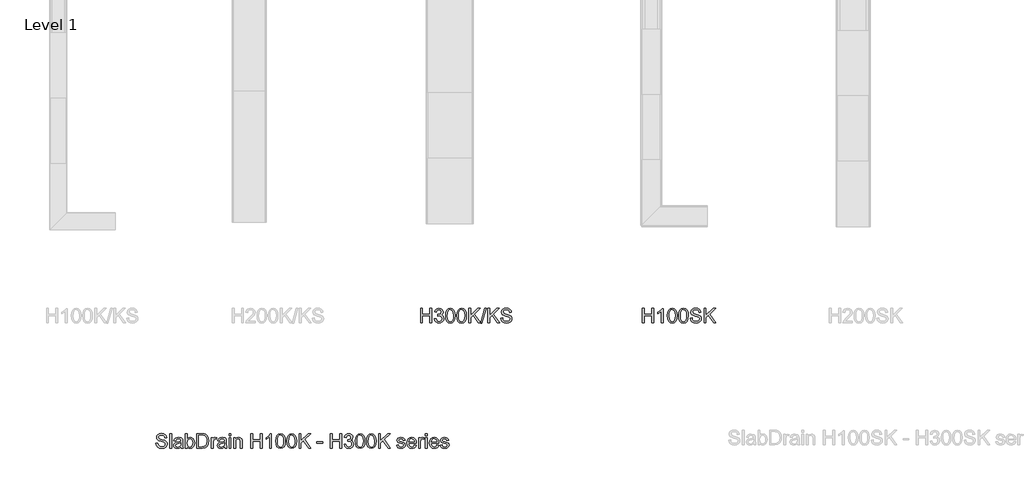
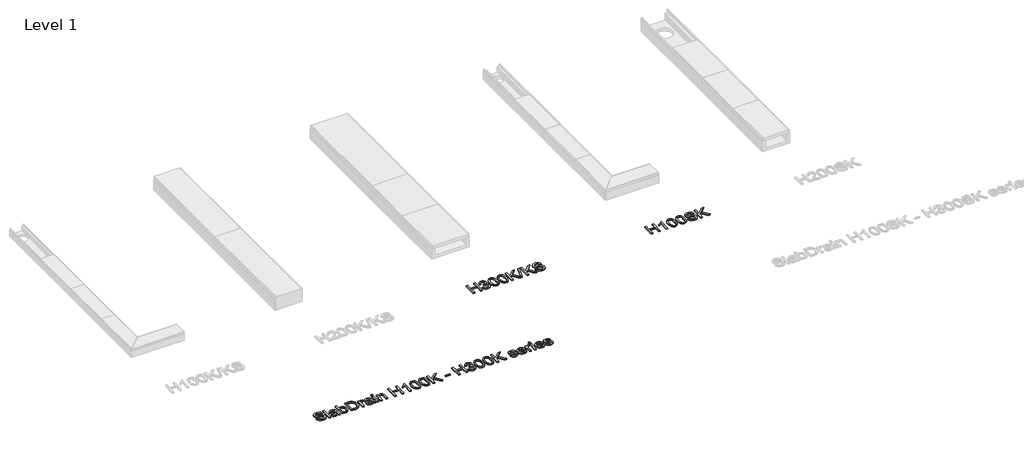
# One storey, part 2 of 4: 3 proxies.
"""IFC4 building model written with IfcOpenShell, lengths in millimetres."""

import ifcopenshell
import ifcopenshell.guid

model = None  # the IFC model being written
_history = None  # IfcOwnerHistory: only IFC2X3 demands one
_inside = {}  # id of a spatial element -> (the spatial element, [elements in it])
_under = {}  # id of a project, library or spatial element -> (it, [spatial elements below it])
_declared = {}  # id of a project -> (the project, [libraries it declares])
_typed = {}  # id of a type object -> (the type object, [elements of that type])
_made_of = {}  # id of a material, layer set ... -> (it, [elements and type objects made of it])


def new_model(schema):
    """Start an empty IFC model of exactly this schema.

    Asked for "IFC4X3", IfcOpenShell would pick the latest addendum, in which some entities
    have other attributes; the version numbers below select the first issue.
    IFC2X3 requires an IfcOwnerHistory on every rooted entity: one is made here for all.
    """
    global model, _history
    if schema == "IFC4X3":
        model = ifcopenshell.file(schema_version=(4, 3, 0, 0))
    else:
        model = ifcopenshell.file(schema=schema)
    _inside.clear()
    _under.clear()
    _declared.clear()
    _typed.clear()
    _made_of.clear()
    _history = None
    if model.schema == "IFC2X3":
        org = make("IfcOrganization", Name="unknown")
        user = make(
            "IfcPersonAndOrganization",
            ThePerson=make("IfcPerson", FamilyName="unknown"),
            TheOrganization=org,
        )
        app = make(
            "IfcApplication",
            ApplicationDeveloper=org,
            Version="unknown",
            ApplicationFullName="unknown",
            ApplicationIdentifier="unknown",
        )
        _history = make(
            "IfcOwnerHistory",
            OwningUser=user,
            OwningApplication=app,
            ChangeAction="ADDED",
            CreationDate=0,
        )
    return model


def make(cls, **values):
    """One entity of the class cls with the attributes given. An attribute that is None is left unset."""
    return model.create_entity(
        cls, **{name: value for name, value in values.items() if value is not None}
    )


def rooted(cls, **values):
    """An entity with a GlobalId (a new one), such as an element, a storey or a relation."""
    return make(cls, GlobalId=ifcopenshell.guid.new(), OwnerHistory=_history, **values)


def si_unit(unit_type, name, prefix=None):
    """IfcSIUnit, for example si_unit("LENGTHUNIT", "METRE", prefix="MILLI")."""
    return make("IfcSIUnit", UnitType=unit_type, Prefix=prefix, Name=name)


def assignment(units):
    """IfcUnitAssignment: the units of a project."""
    return None if units is None else make("IfcUnitAssignment", Units=units)


def point(xyz):
    """IfcCartesianPoint."""
    return None if xyz is None else make("IfcCartesianPoint", Coordinates=xyz)


def direction(xyz):
    """IfcDirection."""
    return None if xyz is None else make("IfcDirection", DirectionRatios=xyz)


def frame(location, z_axis=None, x_axis=None):
    """IfcAxis2Placement3D, a coordinate frame: its origin and axes. An axis left out is left unset."""
    return make(
        "IfcAxis2Placement3D",
        Location=point(location),
        Axis=direction(z_axis),
        RefDirection=direction(x_axis),
    )


def origin():
    """The frame at (0, 0, 0) with its axes left unset."""
    return frame((0.0, 0.0, 0.0))


def origin_with_axes():
    """The frame at (0, 0, 0) with the z axis (0, 0, 1) and the x axis (1, 0, 0) written out."""
    return frame((0.0, 0.0, 0.0), z_axis=(0.0, 0.0, 1.0), x_axis=(1.0, 0.0, 0.0))


def place(relative_to, where):
    """IfcLocalPlacement: puts the frame where relative to a parent placement (None: the world)."""
    return make(
        "IfcLocalPlacement", PlacementRelTo=relative_to, RelativePlacement=where
    )


def context(
    kind, dimensions, precision=None, world=None, true_north=None, identifier=None
):
    """IfcGeometricRepresentationContext, for example the 3D "Model" context."""
    return make(
        "IfcGeometricRepresentationContext",
        ContextIdentifier=identifier,
        ContextType=kind,
        CoordinateSpaceDimension=dimensions,
        Precision=precision,
        WorldCoordinateSystem=world,
        TrueNorth=true_north,
    )


def project(units=None, contexts=None):
    """IfcProject with its units and contexts."""
    return rooted(
        "IfcProject",
        Name="project",
        RepresentationContexts=contexts,
        UnitsInContext=assignment(units),
    )


def spatial(cls, under=None, at=None, **own):
    """A site, building, storey or space (cls), placed at a placement, below another one or the project."""
    s = rooted(cls, ObjectPlacement=at, **own)
    if under is not None:
        _under.setdefault(under.id(), (under, []))[1].append(s)
    return s


def polyline(points):
    """IfcPolyline through the points."""
    return make("IfcPolyline", Points=[point(p) for p in points])


def outline(outer, holes=None, kind="AREA"):
    """IfcArbitraryClosedProfileDef: a profile drawn as a closed curve; with holes, ...WithVoids."""
    if holes is None:
        return make("IfcArbitraryClosedProfileDef", ProfileType=kind, OuterCurve=outer)
    return make(
        "IfcArbitraryProfileDefWithVoids",
        ProfileType=kind,
        OuterCurve=outer,
        InnerCurves=holes,
    )


def extrude(swept, where, along, depth):
    """IfcExtrudedAreaSolid: the profile swept, set in the frame where, extruded along a direction by depth."""
    return make(
        "IfcExtrudedAreaSolid",
        SweptArea=swept,
        Position=where,
        ExtrudedDirection=direction(along),
        Depth=depth,
    )


def shape(context_of_items, identifier, shape_type, items):
    """IfcShapeRepresentation: the items that make up one representation, for example the "Body"."""
    return make(
        "IfcShapeRepresentation",
        ContextOfItems=context_of_items,
        RepresentationIdentifier=identifier,
        RepresentationType=shape_type,
        Items=items,
    )


def made_of(thing, what):
    """Note that an element or type object is made of a material, layer set ...; save() writes the relation."""
    if what is not None:
        _made_of.setdefault(what.id(), (what, []))[1].append(thing)
    return thing


def element(
    cls,
    number,
    at=None,
    inside=None,
    cuts=None,
    type_object=None,
    material=None,
    context=None,
    identifier="Body",
    shape_type=None,
    held_by="IfcProductDefinitionShape",
    body=None,
    shapes=None,
    **own,
):
    """One element of the class cls, such as IfcWall. Its Tag is "e" and its number.

    at: its placement. inside: the storey or other place that contains it. cuts: it is an
    opening in that element (IfcRelVoidsElement). A single representation is given by context,
    identifier, shape_type and body (its items); several are given by shapes. held_by: the class
    of the entity that holds the representations. save() writes the other relations.
    """
    e = rooted(cls, Tag="e%d" % number, ObjectPlacement=at, **own)
    if body is not None:
        shapes = [shape(context, identifier, shape_type, body)]
    if shapes is not None:
        e.Representation = make(held_by, Representations=shapes)
    if inside is not None:
        _inside.setdefault(inside.id(), (inside, []))[1].append(e)
    if cuts is not None:
        rooted(
            "IfcRelVoidsElement", RelatingBuildingElement=cuts, RelatedOpeningElement=e
        )
    if type_object is not None:
        _typed.setdefault(type_object.id(), (type_object, []))[1].append(e)
    return made_of(e, material)


def aggregate(whole, parts):
    """IfcRelAggregates: a whole, such as a stair, and the parts it consists of."""
    return rooted("IfcRelAggregates", RelatingObject=whole, RelatedObjects=parts)


def save(model, path):
    """Write the relations noted so far, then the file.

    IfcRelAggregates (storeys below a building ...), IfcRelContainedInSpatialStructure (elements
    in a storey), IfcRelDefinesByType, IfcRelAssociatesMaterial and IfcRelDeclares: one each for
    every whole, place, type object, material and project.
    """
    for whole, parts in _under.values():
        aggregate(whole, parts)
    for where, things in _inside.values():
        rooted(
            "IfcRelContainedInSpatialStructure",
            RelatedElements=things,
            RelatingStructure=where,
        )
    for kind, things in _typed.values():
        rooted("IfcRelDefinesByType", RelatedObjects=things, RelatingType=kind)
    for what, things in _made_of.values():
        rooted("IfcRelAssociatesMaterial", RelatedObjects=things, RelatingMaterial=what)
    for by, libraries in _declared.values():
        rooted("IfcRelDeclares", RelatingContext=by, RelatedDefinitions=libraries)
    model.write(path)


model = new_model("IFC4")

# Units and contexts
model_context = context("Model", 3, world=origin())
ifc_project = project(units=[si_unit("LENGTHUNIT", "METRE", prefix="MILLI")], contexts=[model_context])

# Site, building, storey
site = spatial("IfcSite", under=ifc_project)
building = spatial("IfcBuilding", under=site)
storey = spatial("IfcBuildingStorey", under=building, Name="Level 1", Elevation=0.0)

# Proxies
placement = place(None, origin())
element("IfcBuildingElementProxy", 1, Name="100mm ACO", ObjectType="100mm ACO", at=placement, inside=storey, context=model_context, shape_type="SweptSolid", body=[
    extrude(outline(polyline([(964.2351623, -1264.9399941), (962.010138, -1255.099464), (957.063861, -1248.0522199), (949.3963313, -1243.814269), (939.0075489, -1242.4016186), (921.7195904, -1246.8036451), (916.7252914, -1252.2101339), (915.060525, -1259.6255476), (920.0228093, -1270.750669), (940.1280647, -1277.7138744), (962.0741675, -1283.7806673), (976.6248658, -1293.6572139), (981.1629549, -1301.4928209), (982.6756512, -1311.6174818), (979.9023746, -1324.7155114), (971.5825446, -1335.3884246), (958.8046624, -1342.4836909), (942.657229, -1344.8487796), (922.7600694, -1342.2235711), (908.5935479, -1334.3479456), (899.9495687, -1322.2943968), (896.620036, -1307.1354185), (910.9626385, -1305.9188585), (913.8719778, -1317.952398), (920.7431409, -1326.2001948), (930.5196415, -1330.9663889), (942.1449932, -1332.5551203), (961.0977179, -1327.3207107), (966.524216, -1321.1538718), (968.3330487, -1313.1221745), (966.4641884, -1305.0144421), (960.8576074, -1299.4518814), (935.1017509, -1291.2080864), (919.3785127, -1286.4058758), (908.769629, -1279.906884), (902.7308491, -1271.4669987), (900.7179224, -1260.8421076), (903.2430849, -1248.6765073), (910.8185722, -1238.815968), (922.7480639, -1232.2849615), (938.3352394, -1230.1079593), (954.4466562, -1232.3009689), (967.0524592, -1238.8799975), (975.3602836, -1249.4928831), (978.5777648, -1263.7874635), (964.2351623, -1264.9399941)])), origin_with_axes(), (0.0, 0.0, 1.0), 10.0),
    extrude(outline(polyline([(1015.4587427, -1342.7998364), (1001.1161402, -1342.7998364), (1001.1161402, -1232.1569025), (1015.4587427, -1232.1569025), (1015.4587427, -1342.7998364)])), origin_with_axes(), (0.0, 0.0, 1.0), 10.0),
    extrude(outline(polyline([(1105.6122444, -1342.7998364), (1091.2696419, -1342.7998364), (1087.1717554, -1333.1313856), (1073.3493924, -1341.9194311), (1058.4545356, -1344.8487796), (1047.4054492, -1343.2480427), (1038.9735677, -1338.4458321), (1033.6311083, -1331.0184129), (1031.8502885, -1321.5420505), (1033.5950917, -1312.3498189), (1038.8295013, -1304.9424089), (1048.3778969, -1299.5279164), (1063.0646579, -1296.3144371), (1075.6144351, -1294.3935528), (1087.1717554, -1291.5762559), (1086.8035859, -1282.6921662), (1084.6585985, -1277.2976829), (1078.9439678, -1272.7996122), (1068.3470896, -1271.0868237), (1054.9809366, -1274.5604228), (1048.2418343, -1287.4783695), (1033.8992317, -1285.7175589), (1037.8330426, -1274.8645628), (1045.2164415, -1267.0849815), (1056.0414247, -1262.4028261), (1070.2999886, -1260.8421076), (1091.6057966, -1265.1160751), (1099.9616432, -1275.4248207), (1101.514358, -1290.9679759), (1101.514358, -1309.2483912), (1102.122638, -1331.6587076), (1105.6122444, -1342.7998364)]), holes=[polyline([(1087.1717554, -1306.9433301), (1087.1717554, -1301.820972), (1061.4158989, -1307.7116838), (1049.998643, -1312.2017507), (1046.192891, -1321.3179473), (1050.2907775, -1330.8583392), (1062.1042157, -1334.6040635), (1071.4405136, -1333.0353414), (1079.6002699, -1328.3291749), (1085.278884, -1319.8452694), (1087.1717554, -1306.9433301)])]), origin_with_axes(), (0.0, 0.0, 1.0), 10.0),
    extrude(outline(polyline([(1136.5384811, -1270.7986911), (1145.7907403, -1263.3312535), (1158.0523849, -1260.8421076), (1171.798713, -1263.6594045), (1182.4956372, -1272.1112953), (1189.374804, -1285.1092789), (1191.6678596, -1301.5648541), (1189.146699, -1320.0813781), (1181.5832172, -1333.6916435), (1170.6421806, -1342.0594956), (1157.9883554, -1344.8487796), (1145.798744, -1342.1115195), (1136.6345253, -1333.8997393), (1136.3463927, -1342.7998364), (1122.0037902, -1342.7998364), (1122.0037902, -1232.1569025), (1136.3463927, -1232.1569025), (1136.5384811, -1270.7986911)]), holes=[polyline([(1156.6437365, -1334.6040635), (1164.8515149, -1332.5111), (1171.4825674, -1326.2322096), (1175.8645847, -1316.1675764), (1177.3252571, -1302.7173847), (1175.9806381, -1289.6593735), (1171.9467811, -1279.6187513), (1165.5438336, -1273.2198056), (1157.0919428, -1271.0868237), (1148.6560594, -1273.2878369), (1142.045016, -1279.8908766), (1137.7710485, -1289.8634674), (1136.3463927, -1302.1731341), (1138.7154833, -1320.9337705), (1145.8547698, -1330.5541992), (1156.6437365, -1334.6040635)])]), origin_with_axes(), (0.0, 0.0, 1.0), 10.0),
    extrude(outline(polyline([(1210.1083486, -1232.1569025), (1247.7576802, -1232.1569025), (1264.7895208, -1233.1813742), (1278.4277991, -1238.1596659), (1289.8090384, -1249.0606841), (1297.4765681, -1265.0200309), (1300.2618502, -1286.8700895), (1297.3965312, -1309.1483451), (1288.8005741, -1327.0645928), (1273.2174005, -1338.8660255), (1249.3904319, -1342.7998364), (1210.1083486, -1342.7998364), (1210.1083486, -1232.1569025)]), holes=[polyline([(1224.4509511, -1330.5061771), (1248.0458129, -1330.5061771), (1260.9317449, -1329.5777497), (1272.4410431, -1324.5674432), (1282.0934865, -1311.1852828), (1285.9192477, -1286.5499421), (1284.4465698, -1270.7346616), (1279.0360791, -1257.3364938), (1269.9919157, -1248.4844188), (1260.0353322, -1245.0588419), (1247.5976066, -1244.4505619), (1224.4509511, -1244.4505619), (1224.4509511, -1330.5061771)])]), origin_with_axes(), (0.0, 0.0, 1.0), 10.0),
    extrude(outline(polyline([(1361.7301468, -1263.9795519), (1357.2480835, -1273.1357669), (1347.8357506, -1271.0868237), (1341.4247994, -1272.8876527), (1336.7906661, -1278.2901397), (1333.0449418, -1298.4594245), (1333.0449418, -1342.7998364), (1318.7023392, -1342.7998364), (1318.7023392, -1262.8910508), (1330.9959985, -1262.8910508), (1330.9959985, -1274.7365038), (1338.6635282, -1264.3157067), (1347.9958243, -1260.8421076), (1361.7301468, -1263.9795519)])), origin_with_axes(), (0.0, 0.0, 1.0), 10.0),
    extrude(outline(polyline([(1439.5899892, -1342.7998364), (1425.2473866, -1342.7998364), (1421.1495002, -1333.1313856), (1407.3271371, -1341.9194311), (1392.4322804, -1344.8487796), (1381.383194, -1343.2480427), (1372.9513124, -1338.4458321), (1367.6088531, -1331.0184129), (1365.8280333, -1321.5420505), (1367.5728365, -1312.3498189), (1372.8072461, -1304.9424089), (1382.3556417, -1299.5279164), (1397.0424026, -1296.3144371), (1409.5921798, -1294.3935528), (1421.1495002, -1291.5762559), (1420.7813307, -1282.6921662), (1418.6363433, -1277.2976829), (1412.9217126, -1272.7996122), (1402.3248344, -1271.0868237), (1388.9586813, -1274.5604228), (1382.219579, -1287.4783695), (1367.8769765, -1285.7175589), (1371.8107874, -1274.8645628), (1379.1941863, -1267.0849815), (1390.0191695, -1262.4028261), (1404.2777334, -1260.8421076), (1425.5835414, -1265.1160751), (1433.9393879, -1275.4248207), (1435.4921027, -1290.9679759), (1435.4921027, -1309.2483912), (1436.1003827, -1331.6587076), (1439.5899892, -1342.7998364)]), holes=[polyline([(1421.1495002, -1306.9433301), (1421.1495002, -1301.820972), (1395.3936436, -1307.7116838), (1383.9763878, -1312.2017507), (1380.1706358, -1321.3179473), (1384.2685222, -1330.8583392), (1396.0819605, -1334.6040635), (1405.4182584, -1333.0353414), (1413.5780147, -1328.3291749), (1419.2566288, -1319.8452694), (1421.1495002, -1306.9433301)])]), origin_with_axes(), (0.0, 0.0, 1.0), 10.0),
    extrude(outline(polyline([(1470.3241375, -1342.7998364), (1455.9815349, -1342.7998364), (1455.9815349, -1262.8910508), (1470.3241375, -1262.8910508), (1470.3241375, -1342.7998364)])), origin_with_axes(), (0.0, 0.0, 1.0), 10.0),
    extrude(outline(polyline([(1470.3241375, -1246.4995051), (1455.9815349, -1246.4995051), (1455.9815349, -1232.1569025), (1470.3241375, -1232.1569025), (1470.3241375, -1246.4995051)])), origin_with_axes(), (0.0, 0.0, 1.0), 10.0),
    extrude(outline(polyline([(1556.3797527, -1342.7998364), (1542.0371501, -1342.7998364), (1542.0371501, -1293.0489339), (1537.7631826, -1275.7929902), (1525.8697076, -1271.0868237), (1514.7766009, -1274.0962091), (1507.3491817, -1282.5801146), (1505.1561722, -1298.0752477), (1505.1561722, -1342.7998364), (1490.8135697, -1342.7998364), (1490.8135697, -1262.8910508), (1503.107229, -1262.8910508), (1503.107229, -1274.0001649), (1514.0562693, -1264.1236182), (1528.7190192, -1260.8421076), (1541.3008112, -1263.115154), (1551.0332915, -1269.9182858), (1555.4673327, -1279.5867366), (1556.3797527, -1293.4651254), (1556.3797527, -1342.7998364)])), origin_with_axes(), (0.0, 0.0, 1.0), 10.0),
    extrude(outline(polyline([(1708.0015509, -1342.7998364), (1693.6589484, -1342.7998364), (1693.6589484, -1289.5273127), (1636.2885382, -1289.5273127), (1636.2885382, -1342.7998364), (1621.9459357, -1342.7998364), (1621.9459357, -1232.1569025), (1636.2885382, -1232.1569025), (1636.2885382, -1277.2336534), (1693.6589484, -1277.2336534), (1693.6589484, -1232.1569025), (1708.0015509, -1232.1569025), (1708.0015509, -1342.7998364)])), origin_with_axes(), (0.0, 0.0, 1.0), 10.0),
    extrude(outline(polyline([(1779.7145636, -1342.7998364), (1765.3719611, -1342.7998364), (1765.3719611, -1256.7442212), (1738.7356992, -1273.1357669), (1738.7356992, -1262.8910508), (1758.9530061, -1249.925082), (1771.5187907, -1234.2058458), (1779.7145636, -1234.2058458), (1779.7145636, -1342.7998364)])), origin_with_axes(), (0.0, 0.0, 1.0), 10.0),
    extrude(outline(polyline([(1849.3466183, -1232.1569025), (1865.4960526, -1235.6825256), (1877.0313628, -1246.2593946), (1883.952549, -1263.8875096), (1886.259611, -1288.5668706), (1883.874513, -1313.4303163), (1876.7192191, -1330.9703908), (1865.105873, -1341.3791824), (1849.3466183, -1344.8487796), (1833.2251969, -1341.3311603), (1821.7098959, -1330.7783024), (1814.8007153, -1313.1902058), (1812.4976551, -1288.5668706), (1814.8827531, -1263.7074267), (1822.038047, -1246.1153282), (1833.6353857, -1235.646509), (1849.3466183, -1232.1569025)]), holes=[polyline([(1849.3786331, -1334.6040635), (1859.1591355, -1331.9108237), (1866.2183851, -1323.8311043), (1870.4923526, -1309.6285662), (1871.9170085, -1288.5668706), (1869.4198589, -1261.770535), (1861.8803882, -1247.2038293), (1849.2185594, -1242.4016186), (1839.4580662, -1245.1428806), (1832.4588441, -1253.3666663), (1828.2449043, -1267.6492412), (1826.8402576, -1288.5668706), (1829.3854293, -1315.187125), (1836.9249001, -1329.8018529), (1849.3786331, -1334.6040635)])]), origin_with_axes(), (0.0, 0.0, 1.0), 10.0),
    extrude(outline(polyline([(1935.4022335, -1232.1569025), (1951.5516678, -1235.6825256), (1963.0869781, -1246.2593946), (1970.0081642, -1263.8875096), (1972.3152262, -1288.5668706), (1969.9301283, -1313.4303163), (1962.7748344, -1330.9703908), (1951.1614882, -1341.3791824), (1935.4022335, -1344.8487796), (1919.2808121, -1341.3311603), (1907.7655111, -1330.7783024), (1900.8563305, -1313.1902058), (1898.5532703, -1288.5668706), (1900.9383683, -1263.7074267), (1908.0936622, -1246.1153282), (1919.691001, -1235.646509), (1935.4022335, -1232.1569025)]), holes=[polyline([(1935.4342483, -1334.6040635), (1945.2147507, -1331.9108237), (1952.2740004, -1323.8311043), (1956.5479679, -1309.6285662), (1957.9726237, -1288.5668706), (1955.4754741, -1261.770535), (1947.9360034, -1247.2038293), (1935.2741746, -1242.4016186), (1925.5136814, -1245.1428806), (1918.5144594, -1253.3666663), (1914.3005195, -1267.6492412), (1912.8958729, -1288.5668706), (1915.4410445, -1315.187125), (1922.9805153, -1329.8018529), (1935.4342483, -1334.6040635)])]), origin_with_axes(), (0.0, 0.0, 1.0), 10.0),
    extrude(outline(polyline([(2081.4214527, -1342.7998364), (2064.2295385, -1342.7998364), (2023.4107478, -1286.1657652), (2005.0983177, -1303.8699152), (2005.0983177, -1342.7998364), (1990.7557152, -1342.7998364), (1990.7557152, -1232.1569025), (2005.0983177, -1232.1569025), (2005.0983177, -1285.0452494), (2059.7154604, -1232.1569025), (2079.180421, -1232.1569025), (2033.5274049, -1276.3692555), (2081.4214527, -1342.7998364)])), origin_with_axes(), (0.0, 0.0, 1.0), 10.0),
    extrude(outline(polyline([(2171.0627185, -1305.9188585), (2128.0349109, -1305.9188585), (2128.0349109, -1295.6741424), (2171.0627185, -1295.6741424), (2171.0627185, -1305.9188585)])), origin_with_axes(), (0.0, 0.0, 1.0), 10.0),
    extrude(outline(polyline([(2316.5376871, -1342.7998364), (2302.1950846, -1342.7998364), (2302.1950846, -1289.5273127), (2244.8246744, -1289.5273127), (2244.8246744, -1342.7998364), (2230.4820719, -1342.7998364), (2230.4820719, -1232.1569025), (2244.8246744, -1232.1569025), (2244.8246744, -1277.2336534), (2302.1950846, -1277.2336534), (2302.1950846, -1232.1569025), (2316.5376871, -1232.1569025), (2316.5376871, -1342.7998364)])), origin_with_axes(), (0.0, 0.0, 1.0), 10.0),
    extrude(outline(polyline([(2387.5143608, -1283.4925346), (2396.7306035, -1287.0741834), (2403.3776634, -1293.4811328), (2408.740132, -1310.6570396), (2405.9468461, -1324.2753087), (2397.5669885, -1335.2283509), (2385.2973402, -1342.4436724), (2370.8346824, -1344.8487796), (2357.2484281, -1342.7278032), (2346.2633712, -1336.3648741), (2338.5998433, -1326.5203422), (2334.9781761, -1313.9545576), (2349.3207786, -1312.0656881), (2356.8762567, -1328.985477), (2363.2231785, -1333.1994169), (2371.3149035, -1334.6040635), (2380.2430135, -1332.9152861), (2387.6904419, -1327.8489538), (2392.7207575, -1320.3334941), (2394.3975294, -1311.2973344), (2392.8248054, -1302.7133828), (2388.1066335, -1295.7221645), (2380.8512935, -1291.0760256), (2371.6670656, -1289.5273127), (2361.6144379, -1291.5762559), (2363.2151748, -1279.2825966), (2371.9231835, -1278.7383461), (2379.0944848, -1276.0811228), (2385.657506, -1270.0303374), (2388.2506998, -1260.2658423), (2382.9522607, -1247.0757704), (2370.6746087, -1242.4016186), (2357.6926325, -1247.7160651), (2351.3697218, -1262.8910508), (2337.0271193, -1260.425916), (2341.2730739, -1248.048218), (2348.6964912, -1239.2161522), (2358.593047, -1233.921715), (2370.2584171, -1232.1569025), (2382.944257, -1234.249866), (2393.3410431, -1240.5287565), (2400.2802375, -1249.8330397), (2402.5933023, -1261.0021813), (2398.8235669, -1274.352327), (2387.5143608, -1283.4925346)])), origin_with_axes(), (0.0, 0.0, 1.0), 10.0),
    extrude(outline(polyline([(2457.8827545, -1232.1569025), (2474.0321888, -1235.6825256), (2485.567499, -1246.2593946), (2492.4886852, -1263.8875096), (2494.7957472, -1288.5668706), (2492.4106492, -1313.4303163), (2485.2553553, -1330.9703908), (2473.6420092, -1341.3791824), (2457.8827545, -1344.8487796), (2441.7613331, -1341.3311603), (2430.2460321, -1330.7783024), (2423.3368515, -1313.1902058), (2421.0337913, -1288.5668706), (2423.4188893, -1263.7074267), (2430.5741832, -1246.1153282), (2442.1715219, -1235.646509), (2457.8827545, -1232.1569025)]), holes=[polyline([(2457.9147692, -1334.6040635), (2467.6952716, -1331.9108237), (2474.7545213, -1323.8311043), (2479.0284888, -1309.6285662), (2480.4531447, -1288.5668706), (2477.9559951, -1261.770535), (2470.4165244, -1247.2038293), (2457.7546956, -1242.4016186), (2447.9942024, -1245.1428806), (2440.9949803, -1253.3666663), (2436.7810405, -1267.6492412), (2435.3763938, -1288.5668706), (2437.9215655, -1315.187125), (2445.4610362, -1329.8018529), (2457.9147692, -1334.6040635)])]), origin_with_axes(), (0.0, 0.0, 1.0), 10.0),
    extrude(outline(polyline([(2543.9383697, -1232.1569025), (2560.087804, -1235.6825256), (2571.6231142, -1246.2593946), (2578.5443004, -1263.8875096), (2580.8513624, -1288.5668706), (2578.4662644, -1313.4303163), (2571.3109705, -1330.9703908), (2559.6976244, -1341.3791824), (2543.9383697, -1344.8487796), (2527.8169483, -1341.3311603), (2516.3016473, -1330.7783024), (2509.3924667, -1313.1902058), (2507.0894065, -1288.5668706), (2509.4745045, -1263.7074267), (2516.6297984, -1246.1153282), (2528.2271371, -1235.646509), (2543.9383697, -1232.1569025)]), holes=[polyline([(2543.9703845, -1334.6040635), (2553.7508869, -1331.9108237), (2560.8101365, -1323.8311043), (2565.084104, -1309.6285662), (2566.5087599, -1288.5668706), (2564.0116103, -1261.770535), (2556.4721396, -1247.2038293), (2543.8103108, -1242.4016186), (2534.0498176, -1245.1428806), (2527.0505955, -1253.3666663), (2522.8366557, -1267.6492412), (2521.432009, -1288.5668706), (2523.9771807, -1315.187125), (2531.5166515, -1329.8018529), (2543.9703845, -1334.6040635)])]), origin_with_axes(), (0.0, 0.0, 1.0), 10.0),
    extrude(outline(polyline([(2689.9575888, -1342.7998364), (2672.7656746, -1342.7998364), (2631.9468839, -1286.1657652), (2613.6344539, -1303.8699152), (2613.6344539, -1342.7998364), (2599.2918514, -1342.7998364), (2599.2918514, -1232.1569025), (2613.6344539, -1232.1569025), (2613.6344539, -1285.0452494), (2668.2515966, -1232.1569025), (2687.7165572, -1232.1569025), (2642.0635411, -1276.3692555), (2689.9575888, -1342.7998364)])), origin_with_axes(), (0.0, 0.0, 1.0), 10.0),
    extrude(outline(polyline([(2787.7946276, -1285.4294263), (2782.4961885, -1274.6724744), (2770.2505513, -1271.0868237), (2757.7327888, -1274.1602385), (2752.9625928, -1283.0923504), (2756.1160445, -1290.9999906), (2770.9868902, -1295.2899655), (2790.5959171, -1299.9000877), (2800.6005227, -1306.895308), (2804.1861733, -1319.4290778), (2801.9611491, -1329.3096263), (2795.2860762, -1337.5013973), (2784.8892901, -1343.011934), (2771.499126, -1344.8487796), (2757.6967722, -1343.3040685), (2747.2799769, -1338.6699352), (2740.2407364, -1330.9543834), (2736.5710471, -1320.1654168), (2750.9136496, -1318.2125178), (2757.1085014, -1330.5221845), (2771.499126, -1334.6040635), (2785.1053896, -1330.3621108), (2789.8435708, -1320.0373578), (2787.7145907, -1313.4263145), (2782.4001443, -1309.6965975), (2767.3692249, -1306.4951237), (2752.7905136, -1302.9254805), (2744.2065621, -1297.8511445), (2738.6199903, -1283.9247336), (2740.6889427, -1274.756513), (2746.8958, -1267.3571068), (2756.6002674, -1262.4708574), (2769.1620502, -1260.8421076), (2782.3641277, -1262.2667635), (2792.2606835, -1266.540731), (2798.8517176, -1273.6560064), (2802.1372301, -1283.6045862), (2787.7946276, -1285.4294263)])), origin_with_axes(), (0.0, 0.0, 1.0), 10.0),
    extrude(outline(polyline([(2888.1928453, -1305.9188585), (2828.773492, -1305.9188585), (2831.0665476, -1318.2285251), (2836.280948, -1327.2406738), (2843.7844022, -1332.7632161), (2852.944619, -1334.6040635), (2865.8625657, -1330.5221845), (2873.8502428, -1318.2125178), (2888.1928453, -1319.8772841), (2883.3506162, -1330.5221845), (2875.6750829, -1338.3818026), (2865.4463741, -1343.2320354), (2852.944619, -1344.8487796), (2836.8051893, -1342.075503), (2824.6275834, -1333.755673), (2816.9800629, -1320.6336323), (2814.4308894, -1303.4537236), (2816.8880206, -1286.2618094), (2824.2594139, -1272.6555459), (2836.0968632, -1263.7954672), (2851.9521621, -1260.8421076), (2868.7919142, -1264.6678688), (2882.5422441, -1277.6978671), (2886.780195, -1289.3552335), (2888.1928453, -1305.9188585)]), holes=[polyline([(2873.8502428, -1295.6741424), (2871.5451817, -1284.4369694), (2866.2947647, -1276.8494765), (2851.6, -1271.0868237), (2842.9079987, -1272.7996122), (2835.9127785, -1277.9379776), (2828.773492, -1295.6741424), (2873.8502428, -1295.6741424)])]), origin_with_axes(), (0.0, 0.0, 1.0), 10.0),
    extrude(outline(polyline([(2947.6121987, -1263.9795519), (2943.1301354, -1273.1357669), (2933.7178025, -1271.0868237), (2927.3068512, -1272.8876527), (2922.6727179, -1278.2901397), (2918.9269936, -1298.4594245), (2918.9269936, -1342.7998364), (2904.5843911, -1342.7998364), (2904.5843911, -1262.8910508), (2916.8780504, -1262.8910508), (2916.8780504, -1274.7365038), (2924.5455801, -1264.3157067), (2933.8778762, -1260.8421076), (2947.6121987, -1263.9795519)])), origin_with_axes(), (0.0, 0.0, 1.0), 10.0),
    extrude(outline(polyline([(2970.1505741, -1342.7998364), (2955.8079716, -1342.7998364), (2955.8079716, -1262.8910508), (2970.1505741, -1262.8910508), (2970.1505741, -1342.7998364)])), origin_with_axes(), (0.0, 0.0, 1.0), 10.0),
    extrude(outline(polyline([(2970.1505741, -1246.4995051), (2955.8079716, -1246.4995051), (2955.8079716, -1232.1569025), (2970.1505741, -1232.1569025), (2970.1505741, -1246.4995051)])), origin_with_axes(), (0.0, 0.0, 1.0), 10.0),
    extrude(outline(polyline([(3060.3040758, -1305.9188585), (3000.8847224, -1305.9188585), (3003.177778, -1318.2285251), (3008.3921784, -1327.2406738), (3015.8956326, -1332.7632161), (3025.0558494, -1334.6040635), (3037.9737962, -1330.5221845), (3045.9614732, -1318.2125178), (3060.3040758, -1319.8772841), (3055.4618467, -1330.5221845), (3047.7863133, -1338.3818026), (3037.5576046, -1343.2320354), (3025.0558494, -1344.8487796), (3008.9164198, -1342.075503), (2996.7388139, -1333.755673), (2989.0912934, -1320.6336323), (2986.5421199, -1303.4537236), (2988.999251, -1286.2618094), (2996.3706444, -1272.6555459), (3008.2080937, -1263.7954672), (3024.0633926, -1260.8421076), (3040.9031447, -1264.6678688), (3054.6534745, -1277.6978671), (3058.8914255, -1289.3552335), (3060.3040758, -1305.9188585)]), holes=[polyline([(3045.9614732, -1295.6741424), (3043.6564121, -1284.4369694), (3038.4059951, -1276.8494765), (3023.7112305, -1271.0868237), (3015.0192291, -1272.7996122), (3008.0240089, -1277.9379776), (3000.8847224, -1295.6741424), (3045.9614732, -1295.6741424)])]), origin_with_axes(), (0.0, 0.0, 1.0), 10.0),
    extrude(outline(polyline([(3121.7723724, -1285.4294263), (3116.4739332, -1274.6724744), (3104.228296, -1271.0868237), (3091.7105336, -1274.1602385), (3086.9403376, -1283.0923504), (3090.0937893, -1290.9999906), (3104.964635, -1295.2899655), (3124.5736619, -1299.9000877), (3134.5782675, -1306.895308), (3138.1639181, -1319.4290778), (3135.9388938, -1329.3096263), (3129.263821, -1337.5013973), (3118.8670349, -1343.011934), (3105.4768708, -1344.8487796), (3091.674517, -1343.3040685), (3081.2577217, -1338.6699352), (3074.2184812, -1330.9543834), (3070.5487919, -1320.1654168), (3084.8913944, -1318.2125178), (3091.0862462, -1330.5221845), (3105.4768708, -1334.6040635), (3119.0831344, -1330.3621108), (3123.8213156, -1320.0373578), (3121.6923355, -1313.4263145), (3116.377889, -1309.6965975), (3101.3469696, -1306.4951237), (3086.7682584, -1302.9254805), (3078.1843068, -1297.8511445), (3072.5977351, -1283.9247336), (3074.6666875, -1274.756513), (3080.8735448, -1267.3571068), (3090.5780122, -1262.4708574), (3103.139795, -1260.8421076), (3116.3418725, -1262.2667635), (3126.2384283, -1266.540731), (3132.8294624, -1273.6560064), (3136.1149749, -1283.6045862), (3121.7723724, -1285.4294263)])), origin_with_axes(), (0.0, 0.0, 1.0), 10.0),
])
element("IfcBuildingElementProxy", 2, Name="100mm ACO", ObjectType="100mm ACO", at=placement, inside=storey, context=model_context, shape_type="SweptSolid", body=[
    extrude(outline(polyline([(3006.7144942, -383.8015309), (2992.3718917, -383.8015309), (2992.3718917, -330.5290072), (2935.0014815, -330.5290072), (2935.0014815, -383.8015309), (2920.658879, -383.8015309), (2920.658879, -273.1585971), (2935.0014815, -273.1585971), (2935.0014815, -318.2353479), (2992.3718917, -318.2353479), (2992.3718917, -273.1585971), (3006.7144942, -273.1585971), (3006.7144942, -383.8015309)])), origin_with_axes(), (0.0, 0.0, 1.0), 10.0),
    extrude(outline(polyline([(3077.6911679, -324.4942292), (3086.9074106, -328.075878), (3093.5544705, -334.4828274), (3098.9169391, -351.6587342), (3096.1236532, -365.2770033), (3087.7437956, -376.2300455), (3075.4741473, -383.445367), (3061.0114895, -385.8504742), (3047.4252352, -383.7294978), (3036.4401783, -377.3665686), (3028.7766504, -367.5220368), (3025.1549832, -354.9562522), (3039.4975857, -353.0673827), (3047.0530638, -369.9871716), (3053.3999856, -374.2011114), (3061.4917106, -375.6057581), (3070.4198206, -373.9169806), (3077.867249, -368.8506484), (3082.8975646, -361.3351887), (3084.5743365, -352.2990289), (3083.0016125, -343.7150774), (3078.2834406, -336.723859), (3071.0281006, -332.0777202), (3061.8438727, -330.5290072), (3051.791245, -332.5779505), (3053.3919819, -320.2842911), (3062.0999906, -319.7400406), (3069.2712919, -317.0828174), (3075.8343131, -311.0320319), (3078.4275069, -301.2675369), (3073.1290678, -288.0774649), (3060.8514158, -283.4033132), (3047.8694396, -288.7177597), (3041.5465289, -303.8927454), (3027.2039264, -301.4276106), (3031.449881, -289.0499126), (3038.8732983, -280.2178468), (3048.7698542, -274.9234095), (3060.4352242, -273.1585971), (3073.1210641, -275.2515606), (3083.5178502, -281.530451), (3090.4570446, -290.8347342), (3092.7701094, -302.0038759), (3089.000374, -315.3540215), (3077.6911679, -324.4942292)])), origin_with_axes(), (0.0, 0.0, 1.0), 10.0),
    extrude(outline(polyline([(3148.0595616, -273.1585971), (3164.2089959, -276.6842201), (3175.7443061, -287.2610891), (3182.6654923, -304.8892041), (3184.9725543, -329.5685651), (3182.5874563, -354.4320108), (3175.4321624, -371.9720853), (3163.8188163, -382.380877), (3148.0595616, -385.8504742), (3131.9381402, -382.3328548), (3120.4228392, -371.7799969), (3113.5136586, -354.1919003), (3111.2105984, -329.5685651), (3113.5956964, -304.7091212), (3120.7509903, -287.1170228), (3132.348329, -276.6482035), (3148.0595616, -273.1585971)]), holes=[polyline([(3148.0915763, -375.6057581), (3157.8720787, -372.9125182), (3164.9313284, -364.8327988), (3169.2052959, -350.6302607), (3170.6299518, -329.5685651), (3168.1328022, -302.7722296), (3160.5933315, -288.2055239), (3147.9315027, -283.4033132), (3138.1710095, -286.1445751), (3131.1717874, -294.3683609), (3126.9578476, -308.6509358), (3125.5532009, -329.5685651), (3128.0983726, -356.1888196), (3135.6378433, -370.8035474), (3148.0915763, -375.6057581)])]), origin_with_axes(), (0.0, 0.0, 1.0), 10.0),
    extrude(outline(polyline([(3234.1151768, -273.1585971), (3250.2646111, -276.6842201), (3261.7999213, -287.2610891), (3268.7211075, -304.8892041), (3271.0281695, -329.5685651), (3268.6430715, -354.4320108), (3261.4877776, -371.9720853), (3249.8744315, -382.380877), (3234.1151768, -385.8504742), (3217.9937554, -382.3328548), (3206.4784544, -371.7799969), (3199.5692738, -354.1919003), (3197.2662136, -329.5685651), (3199.6513116, -304.7091212), (3206.8066055, -287.1170228), (3218.4039442, -276.6482035), (3234.1151768, -273.1585971)]), holes=[polyline([(3234.1471916, -375.6057581), (3243.927694, -372.9125182), (3250.9869436, -364.8327988), (3255.2609111, -350.6302607), (3256.685567, -329.5685651), (3254.1884174, -302.7722296), (3246.6489467, -288.2055239), (3233.9871179, -283.4033132), (3224.2266247, -286.1445751), (3217.2274026, -294.3683609), (3213.0134628, -308.6509358), (3211.6088161, -329.5685651), (3214.1539878, -356.1888196), (3221.6934586, -370.8035474), (3234.1471916, -375.6057581)])]), origin_with_axes(), (0.0, 0.0, 1.0), 10.0),
    extrude(outline(polyline([(3380.134396, -383.8015309), (3362.9424817, -383.8015309), (3322.123691, -327.1674598), (3303.811261, -344.8716098), (3303.811261, -383.8015309), (3289.4686585, -383.8015309), (3289.4686585, -273.1585971), (3303.811261, -273.1585971), (3303.811261, -326.0469439), (3358.4284037, -273.1585971), (3377.8933643, -273.1585971), (3332.2403482, -317.37095), (3380.134396, -383.8015309)])), origin_with_axes(), (0.0, 0.0, 1.0), 10.0),
    extrude(outline(polyline([(3422.6499678, -273.1585971), (3390.2190384, -385.8504742), (3379.6221601, -385.8504742), (3412.0530895, -273.1585971), (3422.6499678, -273.1585971)])), origin_with_axes(), (0.0, 0.0, 1.0), 10.0),
    extrude(outline(polyline([(3525.6093645, -383.8015309), (3508.4174503, -383.8015309), (3467.5986596, -327.1674598), (3449.2862296, -344.8716098), (3449.2862296, -383.8015309), (3434.9436271, -383.8015309), (3434.9436271, -273.1585971), (3449.2862296, -273.1585971), (3449.2862296, -326.0469439), (3503.9033723, -273.1585971), (3523.3683329, -273.1585971), (3477.7153168, -317.37095), (3525.6093645, -383.8015309)])), origin_with_axes(), (0.0, 0.0, 1.0), 10.0),
    extrude(outline(polyline([(3600.9080278, -305.9416886), (3598.6830036, -296.1011586), (3593.7367266, -289.0539144), (3586.0691969, -284.8159635), (3575.6804145, -283.4033132), (3558.392456, -287.8053396), (3553.3981569, -293.2118285), (3551.7333906, -300.6272421), (3556.6956749, -311.7523635), (3576.8009303, -318.715569), (3598.747033, -324.7823618), (3613.2977314, -334.6589084), (3617.8358205, -342.4945155), (3619.3485168, -352.6191763), (3616.5752402, -365.7172059), (3608.2554102, -376.3901191), (3595.4775279, -383.4853854), (3579.3300946, -385.8504742), (3559.432935, -383.2252657), (3545.2664135, -375.3496402), (3536.6224343, -363.2960914), (3533.2929016, -348.137113), (3547.6355041, -346.920553), (3550.5448434, -358.9540926), (3557.4160065, -367.2018894), (3567.1925071, -371.9680835), (3578.8178588, -373.5568148), (3597.7705835, -368.3224052), (3603.1970816, -362.1555663), (3605.0059143, -354.123869), (3603.137054, -346.0161366), (3597.530473, -340.453576), (3571.7746164, -332.209781), (3556.0513783, -327.4075703), (3545.4424946, -320.9085785), (3539.4037147, -312.4686933), (3537.390788, -301.8438022), (3539.9159505, -289.6782018), (3547.4914378, -279.8176626), (3559.4209295, -273.286656), (3575.008105, -271.1096539), (3591.1195218, -273.3026634), (3603.7253248, -279.881692), (3612.0331492, -290.4945776), (3615.2506304, -304.789158), (3600.9080278, -305.9416886)])), origin_with_axes(), (0.0, 0.0, 1.0), 10.0),
])
element("IfcBuildingElementProxy", 3, Name="100mm ACO", ObjectType="100mm ACO", at=placement, inside=storey, context=model_context, shape_type="SweptSolid", body=[
    extrude(outline(polyline([(4703.847279, -383.8015309), (4689.5046764, -383.8015309), (4689.5046764, -330.5290072), (4632.1342663, -330.5290072), (4632.1342663, -383.8015309), (4617.7916638, -383.8015309), (4617.7916638, -273.1585971), (4632.1342663, -273.1585971), (4632.1342663, -318.2353479), (4689.5046764, -318.2353479), (4689.5046764, -273.1585971), (4703.847279, -273.1585971), (4703.847279, -383.8015309)])), origin_with_axes(), (0.0, 0.0, 1.0), 10.0),
    extrude(outline(polyline([(4775.5602917, -383.8015309), (4761.2176891, -383.8015309), (4761.2176891, -297.7459157), (4734.5814273, -314.1374615), (4734.5814273, -303.8927454), (4754.7987342, -290.9267766), (4767.3645188, -275.2075403), (4775.5602917, -275.2075403), (4775.5602917, -383.8015309)])), origin_with_axes(), (0.0, 0.0, 1.0), 10.0),
    extrude(outline(polyline([(4845.1923464, -273.1585971), (4861.3417807, -276.6842201), (4872.8770909, -287.2610891), (4879.798277, -304.8892041), (4882.1053391, -329.5685651), (4879.7202411, -354.4320108), (4872.5649472, -371.9720853), (4860.9516011, -382.380877), (4845.1923464, -385.8504742), (4829.070925, -382.3328548), (4817.555624, -371.7799969), (4810.6464434, -354.1919003), (4808.3433832, -329.5685651), (4810.7284811, -304.7091212), (4817.883775, -287.1170228), (4829.4811138, -276.6482035), (4845.1923464, -273.1585971)]), holes=[polyline([(4845.2243611, -375.6057581), (4855.0048635, -372.9125182), (4862.0641132, -364.8327988), (4866.3380807, -350.6302607), (4867.7627365, -329.5685651), (4865.265587, -302.7722296), (4857.7261162, -288.2055239), (4845.0642874, -283.4033132), (4835.3037942, -286.1445751), (4828.3045722, -294.3683609), (4824.0906323, -308.6509358), (4822.6859857, -329.5685651), (4825.2311574, -356.1888196), (4832.7706281, -370.8035474), (4845.2243611, -375.6057581)])]), origin_with_axes(), (0.0, 0.0, 1.0), 10.0),
    extrude(outline(polyline([(4931.2479616, -273.1585971), (4947.3973959, -276.6842201), (4958.9327061, -287.2610891), (4965.8538922, -304.8892041), (4968.1609543, -329.5685651), (4965.7758563, -354.4320108), (4958.6205624, -371.9720853), (4947.0072163, -382.380877), (4931.2479616, -385.8504742), (4915.1265402, -382.3328548), (4903.6112392, -371.7799969), (4896.7020586, -354.1919003), (4894.3989984, -329.5685651), (4896.7840963, -304.7091212), (4903.9393902, -287.1170228), (4915.536729, -276.6482035), (4931.2479616, -273.1585971)]), holes=[polyline([(4931.2799763, -375.6057581), (4941.0604787, -372.9125182), (4948.1197284, -364.8327988), (4952.3936959, -350.6302607), (4953.8183517, -329.5685651), (4951.3212022, -302.7722296), (4943.7817314, -288.2055239), (4931.1199026, -283.4033132), (4921.3594095, -286.1445751), (4914.3601874, -294.3683609), (4910.1462475, -308.6509358), (4908.7416009, -329.5685651), (4911.2867726, -356.1888196), (4918.8262433, -370.8035474), (4931.2799763, -375.6057581)])]), origin_with_axes(), (0.0, 0.0, 1.0), 10.0),
    extrude(outline(polyline([(5050.1186831, -305.9416886), (5047.8936588, -296.1011586), (5042.9473818, -289.0539144), (5035.2798521, -284.8159635), (5024.8910697, -283.4033132), (5007.6031113, -287.8053396), (5002.6088122, -293.2118285), (5000.9440458, -300.6272421), (5005.9063302, -311.7523635), (5026.0115855, -318.715569), (5047.9576883, -324.7823618), (5062.5083866, -334.6589084), (5067.0464757, -342.4945155), (5068.559172, -352.6191763), (5065.7858954, -365.7172059), (5057.4660654, -376.3901191), (5044.6881832, -383.4853854), (5028.5407498, -385.8504742), (5008.6435902, -383.2252657), (4994.4770688, -375.3496402), (4985.8330896, -363.2960914), (4982.5035568, -348.137113), (4996.8461594, -346.920553), (4999.7554987, -358.9540926), (5006.6266618, -367.2018894), (5016.4031623, -371.9680835), (5028.028514, -373.5568148), (5046.9812388, -368.3224052), (5052.4077368, -362.1555663), (5054.2165695, -354.123869), (5052.3477092, -346.0161366), (5046.7411282, -340.453576), (5020.9852717, -332.209781), (5005.2620336, -327.4075703), (4994.6531498, -320.9085785), (4988.6143699, -312.4686933), (4986.6014433, -301.8438022), (4989.1266057, -289.6782018), (4996.702093, -279.8176626), (5008.6315847, -273.286656), (5024.2187602, -271.1096539), (5040.330177, -273.3026634), (5052.93598, -279.881692), (5061.2438044, -290.4945776), (5064.4612856, -304.789158), (5050.1186831, -305.9416886)])), origin_with_axes(), (0.0, 0.0, 1.0), 10.0),
    extrude(outline(polyline([(5179.7143417, -383.8015309), (5162.5224275, -383.8015309), (5121.7036368, -327.1674598), (5103.3912068, -344.8716098), (5103.3912068, -383.8015309), (5089.0486042, -383.8015309), (5089.0486042, -273.1585971), (5103.3912068, -273.1585971), (5103.3912068, -326.0469439), (5158.0083495, -273.1585971), (5177.47331, -273.1585971), (5131.8202939, -317.37095), (5179.7143417, -383.8015309)])), origin_with_axes(), (0.0, 0.0, 1.0), 10.0),
])

save(model, "model.ifc")
